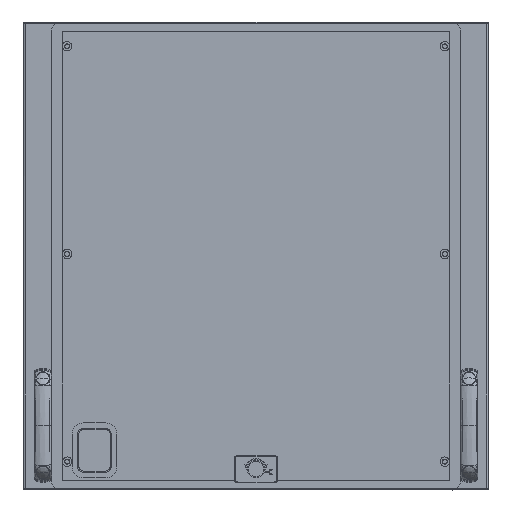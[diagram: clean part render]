
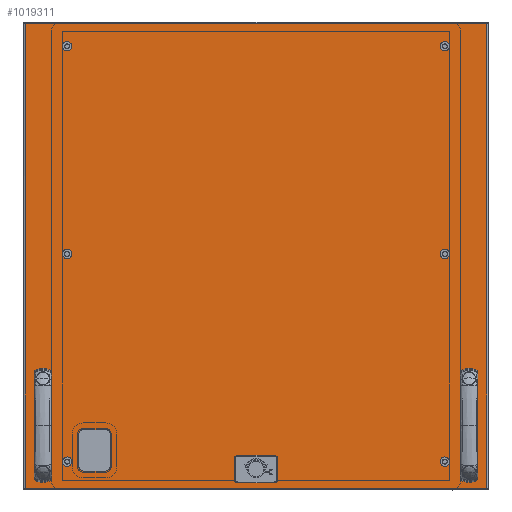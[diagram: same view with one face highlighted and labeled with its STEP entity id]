
A CAD part, front view. The second image highlights one B-rep face of the part: STEP entity #1019311.
In plain terms, the highlighted planar face has unit normal (0, -1, 0) as drawn and (0, 0, 1) by its records, which use the part's own axes.
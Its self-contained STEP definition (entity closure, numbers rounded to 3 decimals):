
#1016701=CARTESIAN_POINT(' ',(2.3,594.7,0.));
#1016702=VERTEX_POINT(' ',#1016701);
#1016716=CARTESIAN_POINT(' ',(2.3,594.7,0.));
#1016721=DIRECTION(' ',(1.,0.,0.));
#1016726=VECTOR(' ',#1016721,1.);
#1016731=LINE('',#1016716,#1016726);
#1016736=CARTESIAN_POINT(' ',(591.7,594.7,0.));
#1016737=VERTEX_POINT(' ',#1016736);
#1016741=EDGE_CURVE(' ',#1016702,#1016737,#1016731,.T.);
#1018411=DIRECTION(' ',(-0.,-0.,1.));
#1018416=CARTESIAN_POINT(' ',(591.7,2.3,0.));
#1018421=DIRECTION(' ',(0.,1.,0.));
#1018426=AXIS2_PLACEMENT_3D(' ',#1018416,#1018411,#1018421);
#1018431=PLANE('NONE',#1018426);
#1018436=CARTESIAN_POINT(' ',(591.7,594.7,0.));
#1018441=DIRECTION(' ',(0.,-1.,0.));
#1018446=VECTOR(' ',#1018441,1.);
#1018451=LINE('',#1018436,#1018446);
#1018456=CARTESIAN_POINT(' ',(591.7,2.3,0.));
#1018457=VERTEX_POINT(' ',#1018456);
#1018461=EDGE_CURVE(' ',#1016737,#1018457,#1018451,.T.);
#1018466=ORIENTED_EDGE(' ',*,*,#1018461,.F.);
#1018471=ORIENTED_EDGE(' ',*,*,#1016741,.F.);
#1018476=CARTESIAN_POINT(' ',(2.3,2.3,0.));
#1018481=DIRECTION(' ',(0.,1.,0.));
#1018486=VECTOR(' ',#1018481,1.);
#1018491=LINE('',#1018476,#1018486);
#1018496=CARTESIAN_POINT(' ',(2.3,2.3,0.));
#1018497=VERTEX_POINT(' ',#1018496);
#1018501=EDGE_CURVE(' ',#1018497,#1016702,#1018491,.T.);
#1018506=ORIENTED_EDGE(' ',*,*,#1018501,.F.);
#1018511=CARTESIAN_POINT(' ',(591.7,2.3,0.));
#1018516=DIRECTION(' ',(-1.,0.,0.));
#1018521=VECTOR(' ',#1018516,1.);
#1018526=LINE('',#1018511,#1018521);
#1018531=EDGE_CURVE(' ',#1018457,#1018497,#1018526,.T.);
#1018536=ORIENTED_EDGE(' ',*,*,#1018531,.F.);
#1018541=EDGE_LOOP(' ',(#1018466,#1018471,#1018506,#1018536));
#1018546=FACE_OUTER_BOUND(' ',#1018541,.T.);
#1018551=CARTESIAN_POINT(' ',(104.85,30.,0.));
#1018556=DIRECTION(' ',(0.,-0.,1.));
#1018561=DIRECTION(' ',(0.,-1.,0.));
#1018566=AXIS2_PLACEMENT_3D(' ',#1018551,#1018556,#1018561);
#1018571=CIRCLE('',#1018566,6.);
#1018576=CARTESIAN_POINT(' ',(104.85,24.,0.));
#1018577=VERTEX_POINT(' ',#1018576);
#1018581=CARTESIAN_POINT(' ',(110.85,30.,0.));
#1018582=VERTEX_POINT(' ',#1018581);
#1018586=EDGE_CURVE(' ',#1018577,#1018582,#1018571,.T.);
#1018591=ORIENTED_EDGE(' ',*,*,#1018586,.F.);
#1018596=CARTESIAN_POINT(' ',(76.85,24.,0.));
#1018601=DIRECTION(' ',(1.,0.,0.));
#1018606=VECTOR(' ',#1018601,1.);
#1018611=LINE('',#1018596,#1018606);
#1018616=CARTESIAN_POINT(' ',(76.85,24.,0.));
#1018617=VERTEX_POINT(' ',#1018616);
#1018621=EDGE_CURVE(' ',#1018617,#1018577,#1018611,.T.);
#1018626=ORIENTED_EDGE(' ',*,*,#1018621,.F.);
#1018631=CARTESIAN_POINT(' ',(76.85,30.,0.));
#1018636=DIRECTION(' ',(0.,0.,1.));
#1018641=DIRECTION(' ',(-1.,0.,0.));
#1018646=AXIS2_PLACEMENT_3D(' ',#1018631,#1018636,#1018641);
#1018651=CIRCLE('',#1018646,6.);
#1018656=CARTESIAN_POINT(' ',(70.85,30.,0.));
#1018657=VERTEX_POINT(' ',#1018656);
#1018661=EDGE_CURVE(' ',#1018657,#1018617,#1018651,.T.);
#1018666=ORIENTED_EDGE(' ',*,*,#1018661,.F.);
#1018671=CARTESIAN_POINT(' ',(70.85,71.,0.));
#1018676=DIRECTION(' ',(0.,-1.,0.));
#1018681=VECTOR(' ',#1018676,1.);
#1018686=LINE('',#1018671,#1018681);
#1018691=CARTESIAN_POINT(' ',(70.85,71.,0.));
#1018692=VERTEX_POINT(' ',#1018691);
#1018696=EDGE_CURVE(' ',#1018692,#1018657,#1018686,.T.);
#1018701=ORIENTED_EDGE(' ',*,*,#1018696,.F.);
#1018706=CARTESIAN_POINT(' ',(76.85,71.,0.));
#1018711=DIRECTION(' ',(0.,0.,1.));
#1018716=DIRECTION(' ',(0.,1.,0.));
#1018721=AXIS2_PLACEMENT_3D(' ',#1018706,#1018711,#1018716);
#1018726=CIRCLE('',#1018721,6.);
#1018731=CARTESIAN_POINT(' ',(76.85,77.,0.));
#1018732=VERTEX_POINT(' ',#1018731);
#1018736=EDGE_CURVE(' ',#1018732,#1018692,#1018726,.T.);
#1018741=ORIENTED_EDGE(' ',*,*,#1018736,.F.);
#1018746=CARTESIAN_POINT(' ',(104.85,77.,0.));
#1018751=DIRECTION(' ',(-1.,0.,0.));
#1018756=VECTOR(' ',#1018751,1.);
#1018761=LINE('',#1018746,#1018756);
#1018766=CARTESIAN_POINT(' ',(104.85,77.,0.));
#1018767=VERTEX_POINT(' ',#1018766);
#1018771=EDGE_CURVE(' ',#1018767,#1018732,#1018761,.T.);
#1018776=ORIENTED_EDGE(' ',*,*,#1018771,.F.);
#1018781=CARTESIAN_POINT(' ',(104.85,71.,0.));
#1018786=DIRECTION(' ',(0.,0.,1.));
#1018791=DIRECTION(' ',(1.,0.,0.));
#1018796=AXIS2_PLACEMENT_3D(' ',#1018781,#1018786,#1018791);
#1018801=CIRCLE('',#1018796,6.);
#1018806=CARTESIAN_POINT(' ',(110.85,71.,0.));
#1018807=VERTEX_POINT(' ',#1018806);
#1018811=EDGE_CURVE(' ',#1018807,#1018767,#1018801,.T.);
#1018816=ORIENTED_EDGE(' ',*,*,#1018811,.F.);
#1018821=CARTESIAN_POINT(' ',(110.85,30.,0.));
#1018826=DIRECTION(' ',(0.,1.,0.));
#1018831=VECTOR(' ',#1018826,1.);
#1018836=LINE('',#1018821,#1018831);
#1018841=EDGE_CURVE(' ',#1018582,#1018807,#1018836,.T.);
#1018846=ORIENTED_EDGE(' ',*,*,#1018841,.F.);
#1018851=EDGE_LOOP(' ',(#1018591,#1018626,#1018666,#1018701,#1018741,#1018776,#1018816,#1018846));
#1018856=FACE_BOUND(' ',#1018851,.T.);
#1018861=CARTESIAN_POINT(' ',(297.,26.5,0.));
#1018866=DIRECTION(' ',(0.,-0.,1.));
#1018871=DIRECTION(' ',(-1.,0.,0.));
#1018876=AXIS2_PLACEMENT_3D(' ',#1018861,#1018866,#1018871);
#1018881=CIRCLE('',#1018876,10.);
#1018886=CARTESIAN_POINT(' ',(287.,26.5,0.));
#1018887=VERTEX_POINT(' ',#1018886);
#1018891=CARTESIAN_POINT(' ',(307.,26.5,0.));
#1018892=VERTEX_POINT(' ',#1018891);
#1018896=EDGE_CURVE(' ',#1018887,#1018892,#1018881,.T.);
#1018901=ORIENTED_EDGE(' ',*,*,#1018896,.F.);
#1018906=CARTESIAN_POINT(' ',(297.,26.5,0.));
#1018911=DIRECTION(' ',(0.,0.,1.));
#1018916=DIRECTION(' ',(1.,0.,0.));
#1018921=AXIS2_PLACEMENT_3D(' ',#1018906,#1018911,#1018916);
#1018926=CIRCLE('',#1018921,10.);
#1018931=EDGE_CURVE(' ',#1018892,#1018887,#1018926,.T.);
#1018936=ORIENTED_EDGE(' ',*,*,#1018931,.F.);
#1018941=EDGE_LOOP(' ',(#1018901,#1018936));
#1018946=FACE_BOUND(' ',#1018941,.T.);
#1018951=CARTESIAN_POINT(' ',(569.,23.5,0.));
#1018956=DIRECTION(' ',(0.,0.,1.));
#1018961=DIRECTION(' ',(0.,1.,0.));
#1018966=AXIS2_PLACEMENT_3D(' ',#1018951,#1018956,#1018961);
#1018971=CIRCLE('',#1018966,3.75);
#1018976=CARTESIAN_POINT(' ',(569.,27.25,0.));
#1018977=VERTEX_POINT(' ',#1018976);
#1018981=CARTESIAN_POINT(' ',(569.,19.75,0.));
#1018982=VERTEX_POINT(' ',#1018981);
#1018986=EDGE_CURVE(' ',#1018977,#1018982,#1018971,.T.);
#1018991=ORIENTED_EDGE(' ',*,*,#1018986,.F.);
#1018996=CARTESIAN_POINT(' ',(569.,23.5,0.));
#1019001=DIRECTION(' ',(0.,0.,1.));
#1019006=DIRECTION(' ',(0.,-1.,0.));
#1019011=AXIS2_PLACEMENT_3D(' ',#1018996,#1019001,#1019006);
#1019016=CIRCLE('',#1019011,3.75);
#1019021=EDGE_CURVE(' ',#1018982,#1018977,#1019016,.T.);
#1019026=ORIENTED_EDGE(' ',*,*,#1019021,.F.);
#1019031=EDGE_LOOP(' ',(#1018991,#1019026));
#1019036=FACE_BOUND(' ',#1019031,.T.);
#1019041=CARTESIAN_POINT(' ',(25.,143.5,0.));
#1019046=DIRECTION(' ',(0.,0.,1.));
#1019051=DIRECTION(' ',(0.,1.,0.));
#1019056=AXIS2_PLACEMENT_3D(' ',#1019041,#1019046,#1019051);
#1019061=CIRCLE('',#1019056,3.75);
#1019066=CARTESIAN_POINT(' ',(25.,147.25,0.));
#1019067=VERTEX_POINT(' ',#1019066);
#1019071=CARTESIAN_POINT(' ',(25.,139.75,0.));
#1019072=VERTEX_POINT(' ',#1019071);
#1019076=EDGE_CURVE(' ',#1019067,#1019072,#1019061,.T.);
#1019081=ORIENTED_EDGE(' ',*,*,#1019076,.F.);
#1019086=CARTESIAN_POINT(' ',(25.,143.5,0.));
#1019091=DIRECTION(' ',(0.,0.,1.));
#1019096=DIRECTION(' ',(0.,-1.,0.));
#1019101=AXIS2_PLACEMENT_3D(' ',#1019086,#1019091,#1019096);
#1019106=CIRCLE('',#1019101,3.75);
#1019111=EDGE_CURVE(' ',#1019072,#1019067,#1019106,.T.);
#1019116=ORIENTED_EDGE(' ',*,*,#1019111,.F.);
#1019121=EDGE_LOOP(' ',(#1019081,#1019116));
#1019126=FACE_BOUND(' ',#1019121,.T.);
#1019131=CARTESIAN_POINT(' ',(25.,23.5,0.));
#1019136=DIRECTION(' ',(0.,0.,1.));
#1019141=DIRECTION(' ',(0.,1.,0.));
#1019146=AXIS2_PLACEMENT_3D(' ',#1019131,#1019136,#1019141);
#1019151=CIRCLE('',#1019146,3.75);
#1019156=CARTESIAN_POINT(' ',(25.,27.25,0.));
#1019157=VERTEX_POINT(' ',#1019156);
#1019161=CARTESIAN_POINT(' ',(25.,19.75,0.));
#1019162=VERTEX_POINT(' ',#1019161);
#1019166=EDGE_CURVE(' ',#1019157,#1019162,#1019151,.T.);
#1019171=ORIENTED_EDGE(' ',*,*,#1019166,.F.);
#1019176=CARTESIAN_POINT(' ',(25.,23.5,0.));
#1019181=DIRECTION(' ',(0.,0.,1.));
#1019186=DIRECTION(' ',(0.,-1.,0.));
#1019191=AXIS2_PLACEMENT_3D(' ',#1019176,#1019181,#1019186);
#1019196=CIRCLE('',#1019191,3.75);
#1019201=EDGE_CURVE(' ',#1019162,#1019157,#1019196,.T.);
#1019206=ORIENTED_EDGE(' ',*,*,#1019201,.F.);
#1019211=EDGE_LOOP(' ',(#1019171,#1019206));
#1019216=FACE_BOUND(' ',#1019211,.T.);
#1019221=CARTESIAN_POINT(' ',(569.,143.5,0.));
#1019226=DIRECTION(' ',(0.,0.,1.));
#1019231=DIRECTION(' ',(0.,1.,0.));
#1019236=AXIS2_PLACEMENT_3D(' ',#1019221,#1019226,#1019231);
#1019241=CIRCLE('',#1019236,3.75);
#1019246=CARTESIAN_POINT(' ',(569.,147.25,0.));
#1019247=VERTEX_POINT(' ',#1019246);
#1019251=CARTESIAN_POINT(' ',(569.,139.75,0.));
#1019252=VERTEX_POINT(' ',#1019251);
#1019256=EDGE_CURVE(' ',#1019247,#1019252,#1019241,.T.);
#1019261=ORIENTED_EDGE(' ',*,*,#1019256,.F.);
#1019266=CARTESIAN_POINT(' ',(569.,143.5,0.));
#1019271=DIRECTION(' ',(0.,0.,1.));
#1019276=DIRECTION(' ',(0.,-1.,0.));
#1019281=AXIS2_PLACEMENT_3D(' ',#1019266,#1019271,#1019276);
#1019286=CIRCLE('',#1019281,3.75);
#1019291=EDGE_CURVE(' ',#1019252,#1019247,#1019286,.T.);
#1019296=ORIENTED_EDGE(' ',*,*,#1019291,.F.);
#1019301=EDGE_LOOP(' ',(#1019261,#1019296));
#1019306=FACE_BOUND(' ',#1019301,.T.);
#1019311=ADVANCED_FACE('NONE',(#1018546,#1018856,#1018946,#1019036,#1019126,#1019216,#1019306),#1018431,.T.);
